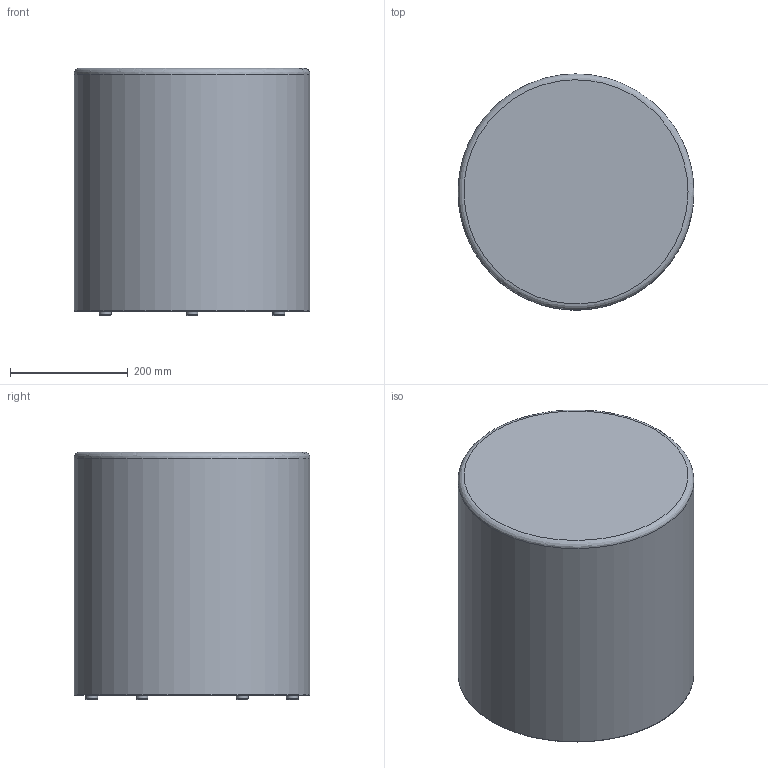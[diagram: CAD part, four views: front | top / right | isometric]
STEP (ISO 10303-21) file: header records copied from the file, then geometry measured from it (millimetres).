
FILE_DESCRIPTION(/* description */ (''),/* implementation_level */ '2;1');
FILE_NAME(/* name */ 'kinoshita_coccole_c120',/* time_stamp */ '2026-05-16T11:37:22+09:00',/* author */ (''),/* organization */ (''),/* preprocessor_version */ 'ST-DEVELOPER v16.5',/* originating_system */ '',/* authorisation */ '');
FILE_SCHEMA (('AUTOMOTIVE_DESIGN'));
Length unit declared in the file: millimetre
Products named in the file (1): Document
Bounding box: 399.96 x 399.91 x 420 mm (x, y, z)
Volume: 52187351.9 mm3; surface area: 771102.7 mm2
Topology: 7 solids, 7 shells, 29 faces, 37 edges, 22 vertices
Faces by surface type: bspline 15, plane 14
Entity records: 978 total; most frequent: CARTESIAN_POINT 616, ORIENTED_EDGE 74, EDGE_CURVE 37, ADVANCED_FACE 29, FACE_OUTER_BOUND 29, EDGE_LOOP 29, VERTEX_POINT 22, DIRECTION 18
